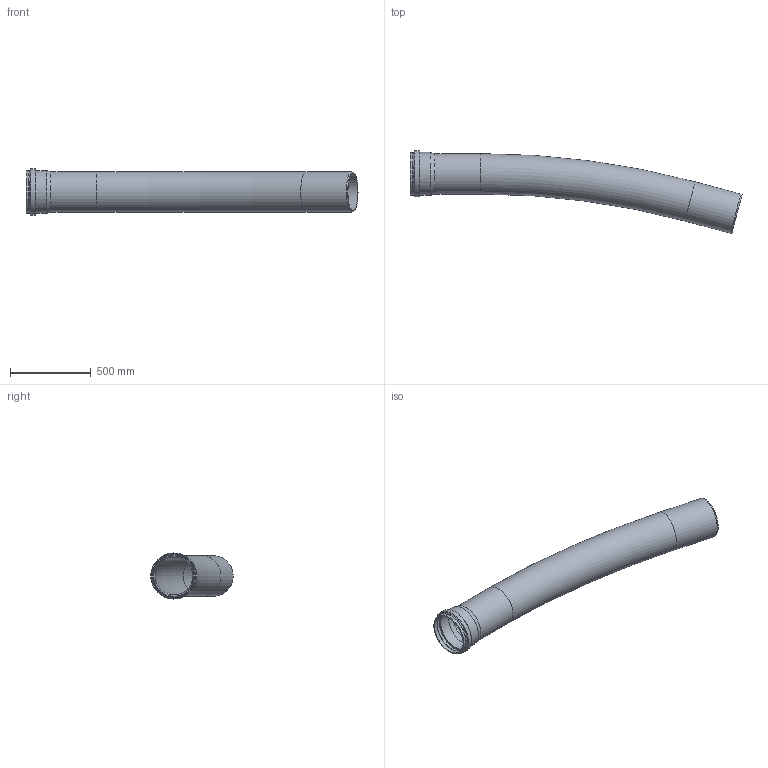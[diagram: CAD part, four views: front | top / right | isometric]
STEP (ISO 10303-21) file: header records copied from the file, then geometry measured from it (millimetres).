
FILE_DESCRIPTION(/* description */ (''),/* implementation_level */ '2;1');
FILE_NAME(/* name */ '734240z.stp',/* time_stamp */ '2026-05-08T11:17:28+02:00',/* author */ ('corinna'),/* organization */ (''),/* preprocessor_version */ 'ST-DEVELOPER v20',/* originating_system */ 'Autodesk Inventor 2024',/* authorisation */ '');
FILE_SCHEMA (('AUTOMOTIVE_DESIGN { 1 0 10303 214 3 1 1 }'));
Length unit declared in the file: millimetre
Products named in the file (1): 734240z
Bounding box: 2052.67 x 509.29 x 285.2 mm (x, y, z)
Volume: 12010390.6 mm3; surface area: 3170137.9 mm2
Topology: 1 solids, 1 shells, 39 faces, 94 edges, 60 vertices
Faces by surface type: torus 16, cylinder 10, cone 8, plane 5
Full cylindrical faces by diameter (mm): 234.6 x2, 250 x2, 250.4 x1, 251 x1, 262 x1, 265 x1, 273.6 x1, 285.2 x1
Entity records: 1227 total; most frequent: DIRECTION 250, CARTESIAN_POINT 194, ORIENTED_EDGE 188, AXIS2_PLACEMENT_3D 116, EDGE_CURVE 94, CIRCLE 76, VERTEX_POINT 60, EDGE_LOOP 44
